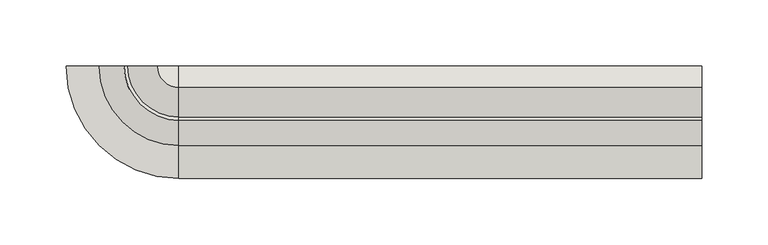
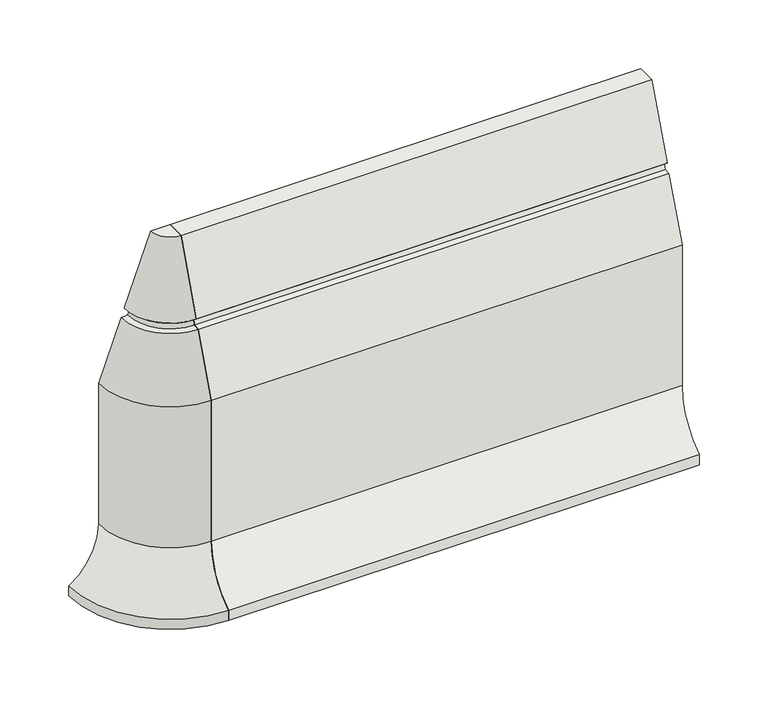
"""IFC4 building model written with IfcOpenShell, lengths in millimetres: wall geometry, GM_PC_UN_ACO kerb PB outside corner_ACO : PB H300 standard."""

from ifc_helpers import new_model, si_unit, frame, origin, place, context, project, spatial, polyline, circle_curve, source, transform, mapped, element, save
from ifc_brep_helpers import plane_surface, cylinder_surface, revolved_surface, extruded_surface, spline_curve, advanced_brep


def wall_329bda53(model_context):
    return source(origin(), model_context, "Body", "AdvancedBrep", [
        advanced_brep(
        [(0.0, -85.0, 8.9329844), (0.0, -60.02016, 54.9904169), (0.0, -60.02016, 180.0038512), (0.0, -41.0897152, 231.6973826), (0.0, -35.6304755, 232.1929291), (0.0, -34.2965161, 236.00239), (0.0, -38.3747848, 239.3170113), (0.0, -16.191681, 300.0008401), (0.0, 0.0, 300.0008401), (0.0, 0.0, -0.0124899), (0.0, -85.0, -0.0124899), (395.0, -85.0, 8.9329844), (395.0, -85.0, -0.0124899), (395.0, 0.0, -0.0124899), (395.0, 0.0, 300.0008401), (395.0, -16.191681, 300.0008401), (395.0, -38.3747848, 239.3170113), (395.0, -34.2965161, 236.00239), (395.0, -35.6304755, 232.1929291), (395.0, -41.0897152, 231.6973826), (395.0, -60.02016, 180.0038512), (395.0, -60.02016, 54.9904169)],
        [
            (0, 1, spline_curve(3, [(0.0, -85.0, 8.9329844), (0.0, -69.4194957, 19.0724445), (0.0, -60.0210198, 36.401179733), (0.0, -60.02016, 54.9904169)], [4, 4], [0.0, 1.0])),
            (1, 2),
            (2, 3),
            (3, 4),
            (4, 5),
            (5, 6),
            (6, 7),
            (7, 8),
            (8, 9),
            (9, 10),
            (10, 0),
            (11, 12),
            (12, 13),
            (13, 14),
            (14, 15),
            (15, 16),
            (16, 17),
            (17, 18),
            (18, 19),
            (19, 20),
            (20, 21),
            (21, 11, spline_curve(3, [(395.0, -60.02016, 54.9904169), (395.0, -60.0210198, 36.401179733), (395.0, -69.4194957, 19.0724445), (395.0, -85.0, 8.9329844)], [4, 4], [0.0, 1.0])),
            (0, 11),
            (21, 1),
            (20, 2),
            (19, 3),
            (18, 4),
            (17, 5),
            (16, 6),
            (15, 7),
            (14, 8),
            (13, 9),
            (12, 10),
        ],
        [
            plane_surface(frame((0.0, 0.0, 0.0), z_axis=(-1.0, 0.0, 0.0), x_axis=(0.0, 0.0, 1.0))),
            plane_surface(frame((395.0, 0.0, 0.0), z_axis=(1.0, 0.0, 0.0), x_axis=(0.0, 0.0, 1.0))),
            extruded_surface(spline_curve(3, [(395.0, -85.0, 8.9329844), (395.0, -69.4194957, 19.0724445), (395.0, -60.0210198, 36.401179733), (395.0, -60.02016, 54.9904169)], [4, 4], [0.0, 1.0]), (-395.0, 0.0, 0.0), 395.0),
            plane_surface(frame((0.0, -60.02016, 54.9904169), z_axis=(0.0, -1.0, 0.0), x_axis=(1.0, 0.0, 0.0))),
            plane_surface(frame((0.0, -60.02016, 180.0038512), z_axis=(0.0, -0.9390162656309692, 0.34387272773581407), x_axis=(1.0, 0.0, 0.0))),
            plane_surface(frame((0.0, -41.0897152, 231.6973826), z_axis=(0.0, -0.09040040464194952, 0.995905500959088), x_axis=(1.0, 0.0, 0.0))),
            plane_surface(frame((0.0, -35.6304755, 232.1929291), z_axis=(0.0, -0.9438082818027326, 0.3304934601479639), x_axis=(1.0, 0.0, 0.0))),
            plane_surface(frame((0.0, -34.2965161, 236.00239), z_axis=(0.0, -0.6307104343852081, -0.776018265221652), x_axis=(1.0, 0.0, 0.0))),
            plane_surface(frame((0.0, -38.3747848, 239.3170113), z_axis=(0.0, -0.9392141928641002, 0.3433317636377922), x_axis=(1.0, 0.0, 0.0))),
            plane_surface(frame((0.0, -16.191681, 300.0008401), z_axis=(0.0, 0.0, 1.0), x_axis=(1.0, 0.0, 0.0))),
            plane_surface(frame((0.0, 0.0, 300.0008401), z_axis=(0.0, 1.0, 0.0), x_axis=(1.0, 0.0, 0.0))),
            plane_surface(frame((0.0, 0.0, -0.0124899), z_axis=(0.0, 0.0, -1.0), x_axis=(1.0, 0.0, 0.0))),
            plane_surface(frame((0.0, -85.0, -0.0124899), z_axis=(0.0, -1.0, 0.0), x_axis=(1.0, 0.0, 0.0))),
        ],
        [
            (0, [[1, 2, 3, 4, 5, 6, 7, 8, 9, 10, 11]]),
            (1, [[12, 13, 14, 15, 16, 17, 18, 19, 20, 21, 22]]),
            (2, [[-1, 23, -22, 24]]),
            (3, [[-2, -24, -21, 25]]),
            (4, [[-3, -25, -20, 26]]),
            (5, [[-4, -26, -19, 27]]),
            (6, [[-5, -27, -18, 28]]),
            (7, [[-6, -28, -17, 29]]),
            (8, [[-7, -29, -16, 30]]),
            (9, [[-8, -30, -15, 31]]),
            (10, [[-9, -31, -14, 32]]),
            (11, [[-10, -32, -13, 33]]),
            (12, [[-11, -33, -12, -23]]),
        ],
    ),
        advanced_brep(
        [(-85.0, 0.0, 8.9329844), (-60.02016, 0.0, 54.9904169), (-60.02016, 0.0, 180.0038512), (-41.0897152, 0.0, 231.6973826), (-35.6304755, 0.0, 232.1929291), (-34.2965161, 0.0, 236.00239), (-38.3747848, 0.0, 239.3170113), (-16.191681, 0.0, 300.0), (0.0, 0.0, 300.0), (0.0, 0.0, 0.0), (-85.0, 0.0, 0.0), (0.0, -85.0, 8.9329844), (0.0, -85.0, 0.0), (0.0, -16.191681, 300.0), (0.0, -38.3747848, 239.3170113), (0.0, -34.2965161, 236.00239), (0.0, -35.6304755, 232.1929291), (0.0, -41.0897152, 231.6973826), (0.0, -60.02016, 180.0038512), (0.0, -60.02016, 54.9904169)],
        [
            (0, 1, spline_curve(3, [(-85.0, 0.0, 8.9329844), (-69.4194957, 0.0, 19.0724445), (-60.0210198, 0.0, 36.401179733), (-60.02016, 0.0, 54.9904169)], [4, 4], [0.0, 1.0])),
            (1, 2),
            (2, 3),
            (3, 4),
            (4, 5),
            (5, 6),
            (6, 7),
            (7, 8),
            (8, 9),
            (9, 10),
            (10, 0),
            (11, 12),
            (12, 9),
            (8, 13),
            (13, 14),
            (14, 15),
            (15, 16),
            (16, 17),
            (17, 18),
            (18, 19),
            (19, 11, spline_curve(3, [(0.0, -60.02016, 54.9904169), (0.0, -60.0210198, 36.401179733), (0.0, -69.4194957, 19.0724445), (0.0, -85.0, 8.9329844)], [4, 4], [0.0, 1.0])),
            (19, 1, circle_curve(frame((0.0, 0.0, 54.9904169), z_axis=(0.0, 0.0, -1.0), x_axis=(-1.0, 0.0, 0.0)), 60.02016)),
            (0, 11, circle_curve(frame((0.0, 0.0, 8.9329844), z_axis=(0.0, 0.0, 1.0), x_axis=(-1.0, 0.0, 0.0)), 85.0)),
            (18, 2, circle_curve(frame((0.0, 0.0, 180.0038512), z_axis=(0.0, 0.0, -1.0), x_axis=(-1.0, 0.0, 0.0)), 60.02016)),
            (17, 3, circle_curve(frame((0.0, 0.0, 231.6973826), z_axis=(0.0, 0.0, -1.0), x_axis=(-1.0, 0.0, 0.0)), 41.0897152)),
            (16, 4, circle_curve(frame((0.0, 0.0, 232.1929291), z_axis=(0.0, 0.0, -1.0), x_axis=(-1.0, 0.0, 0.0)), 35.6304755)),
            (15, 5, circle_curve(frame((0.0, 0.0, 236.00239), z_axis=(0.0, 0.0, -1.0), x_axis=(-1.0, 0.0, 0.0)), 34.2965161)),
            (14, 6, circle_curve(frame((0.0, 0.0, 239.3170113), z_axis=(0.0, 0.0, -1.0), x_axis=(-1.0, 0.0, 0.0)), 38.3747848)),
            (13, 7, circle_curve(frame((0.0, 0.0, 300.0), z_axis=(0.0, 0.0, -1.0), x_axis=(-1.0, 0.0, 0.0)), 16.191681)),
            (12, 10, circle_curve(frame((0.0, 0.0, 0.0), z_axis=(0.0, 0.0, -1.0), x_axis=(-1.0, 0.0, 0.0)), 85.0)),
        ],
        [
            plane_surface(frame((0.0, 0.0, 559.9991599), z_axis=(0.0, 1.0, 0.0), x_axis=(-1.0, 0.0, 0.0))),
            plane_surface(frame((0.0, 0.0, 559.9991599), z_axis=(1.0, 0.0, 0.0), x_axis=(0.0, -1.0, 0.0))),
            revolved_surface(spline_curve(3, [(-85.0, 0.0, 8.9329844), (-69.4194957, 0.0, 19.0724445), (-60.0210198, 0.0, 36.401179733), (-60.02016, 0.0, 54.9904169)], [4, 4], [0.0, 1.0]), (0.0, 0.0, 559.9991599), (0.0, 0.0, 1.0)),
            cylinder_surface(frame((0.0, 0.0, 559.9991599), z_axis=(0.0, 0.0, 1.0), x_axis=(-1.0, 0.0, 0.0)), 60.02016),
            revolved_surface(polyline([(-60.02016, 0.0, 180.0038512), (-41.0897152, 0.0, 231.6973826)]), (0.0, 0.0, 559.9991599), (0.0, 0.0, 1.0)),
            revolved_surface(polyline([(-41.0897152, 0.0, 231.6973826), (-35.6304755, 0.0, 232.1929291)]), (0.0, 0.0, 559.9991599), (0.0, 0.0, 1.0)),
            revolved_surface(polyline([(-35.6304755, 0.0, 232.1929291), (-34.2965161, 0.0, 236.00239)]), (0.0, 0.0, 559.9991599), (0.0, 0.0, 1.0)),
            revolved_surface(polyline([(-34.2965161, 0.0, 236.00239), (-38.3747848, 0.0, 239.3170113)]), (0.0, 0.0, 559.9991599), (0.0, 0.0, 1.0)),
            revolved_surface(polyline([(-38.3747848, 0.0, 239.3170113), (-16.191681, 0.0, 300.0)]), (0.0, 0.0, 559.9991599), (0.0, 0.0, 1.0)),
            plane_surface(frame((0.0, 0.0, 300.0), z_axis=(0.0, 0.0, 1.0), x_axis=(-1.0, 0.0, 0.0))),
            plane_surface(frame((0.0, 0.0, 0.0), z_axis=(0.0, 0.0, -1.0), x_axis=(-1.0, 0.0, 0.0))),
            cylinder_surface(frame((0.0, 0.0, 559.9991599), z_axis=(0.0, 0.0, 1.0), x_axis=(-1.0, 0.0, 0.0)), 85.0),
        ],
        [
            (0, [[1, 2, 3, 4, 5, 6, 7, 8, 9, 10, 11]]),
            (1, [[12, 13, -9, 14, 15, 16, 17, 18, 19, 20, 21]]),
            (2, [[22, -1, 23, -21]]),
            (3, [[24, -2, -22, -20]]),
            (4, [[25, -3, -24, -19]]),
            (5, [[26, -4, -25, -18]]),
            (6, [[27, -5, -26, -17]]),
            (7, [[28, -6, -27, -16]]),
            (8, [[29, -7, -28, -15]]),
            (9, [[-8, -29, -14]]),
            (10, [[30, -10, -13]]),
            (11, [[-23, -11, -30, -12]]),
        ],
    ),
    ])


if __name__ == "__main__":
    model = new_model("IFC4")
    model_context = context("Model", 3, world=origin())
    ifc_project = project(units=[si_unit("LENGTHUNIT", "METRE", prefix="MILLI")], contexts=[model_context])
    site = spatial("IfcSite", under=ifc_project)
    building = spatial("IfcBuilding", under=site)
    placement = place(None, origin())
    wall_shape = wall_329bda53(model_context)
    element("IfcWall", 1, ObjectType="GM_PC_UN_ACO kerb PB outside corner_ACO : PB H300 standard", at=placement, inside=building, context=model_context, shape_type="MappedRepresentation", body=[
        mapped(wall_shape, transform((0.0, 0.0, 0.0), x_axis=(1.0, 0.0, 0.0), y_axis=(0.0, 1.0, 0.0), z_axis=(0.0, 0.0, 1.0))),
    ])
    save(model, "model.ifc")
